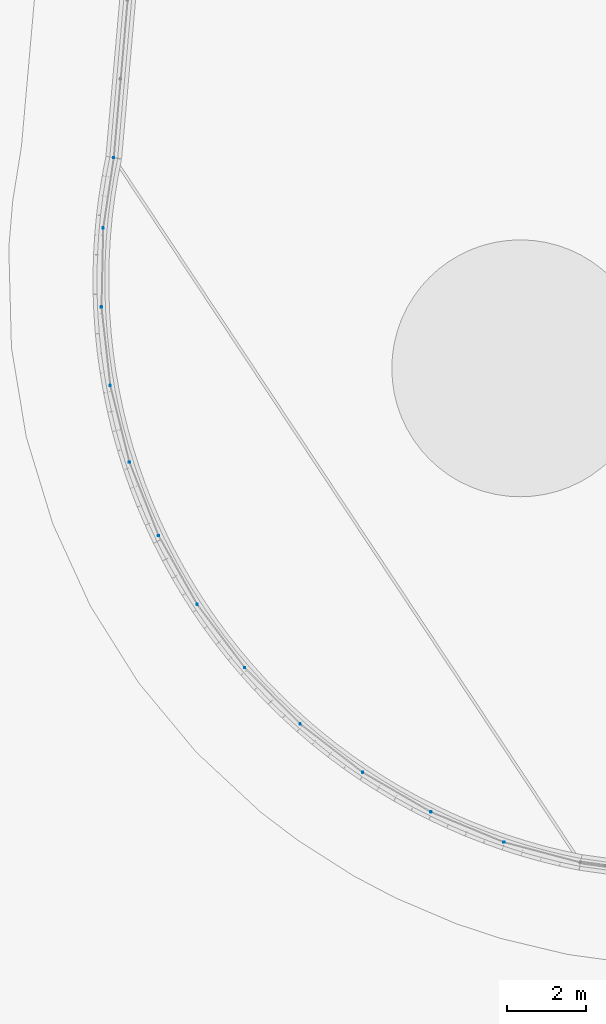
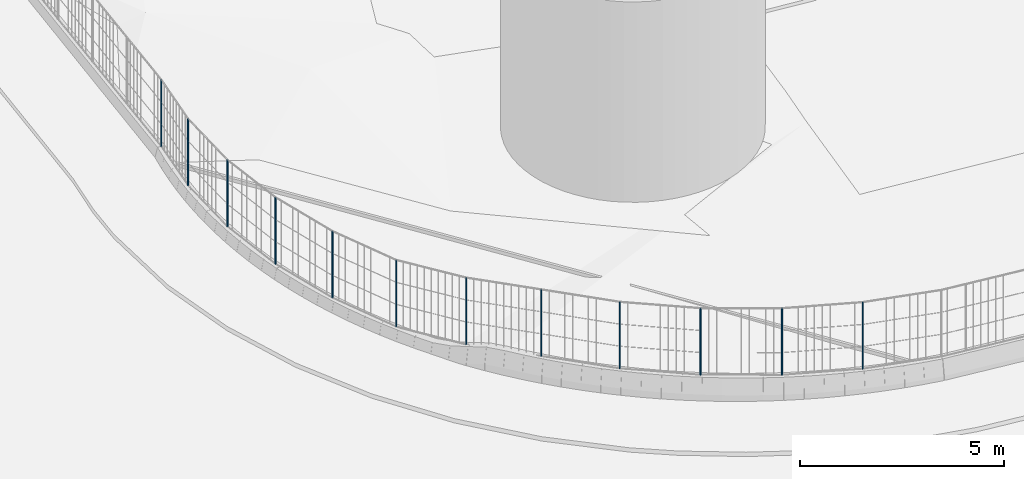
# Not in any storey, part 7 of 75: 1 member.
"""IFC4 model written with IfcOpenShell, lengths in metres."""

from ifc_helpers import new_model, si_unit, direction, origin, origin_with_axes, place, context, subcontext, project, spatial, triangles, element, save


model = new_model("IFC4")

# Units and contexts
model_context = context("Model", 3, precision=1e-05, world=origin_with_axes(), true_north=direction((0.0, 1.0)))
body_context = subcontext(model_context, "Body", "Model", "MODEL_VIEW")
ifc_project = project(units=[si_unit("AREAUNIT", "SQUARE_METRE"), si_unit("VOLUMEUNIT", "CUBIC_METRE"), si_unit("LENGTHUNIT", "METRE")], contexts=[model_context])

# Site
site_placement = place(None, origin_with_axes())
site = spatial("IfcSite", under=ifc_project, at=site_placement, Name="Parcela industrial Jinhong")

# Member
member_placement = place(None, origin())
element("IfcMember", 1, at=member_placement, inside=site, Name="Postes de vallado · Curva suroeste", ObjectType="Tubo de perfil 35 × 2 mm", PredefinedType="USERDEFINED", context=body_context, shape_type="Tessellation", body=[
    triangles([(4.090333, 19.619807, 1.25), (4.107833, 19.619807, 1.25), (4.107833, 19.619807, 3.25), (4.090333, 19.619807, 3.25), (4.104491, 19.630093, 1.25), (4.104491, 19.630093, 3.25), (4.095741, 19.63645, 1.25), (4.095741, 19.63645, 3.25), (4.084925, 19.63645, 1.25), (4.084925, 19.63645, 3.25), (4.076175, 19.630093, 1.25), (4.076175, 19.630093, 3.25), (4.072833, 19.619807, 1.25), (4.072833, 19.619807, 3.25), (4.076175, 19.60952, 1.25), (4.076175, 19.60952, 3.25), (4.084925, 19.603163, 1.25), (4.084925, 19.603163, 3.25), (4.095741, 19.603163, 1.25), (4.095741, 19.603163, 3.25), (4.104491, 19.60952, 1.25), (4.104491, 19.60952, 3.25)], [[2, 1, 5], [2, 5, 3], [3, 5, 6], [3, 6, 4], [5, 1, 7], [5, 7, 6], [6, 7, 8], [6, 8, 4], [7, 1, 9], [7, 9, 8], [8, 9, 10], [8, 10, 4], [9, 1, 11], [9, 11, 10], [10, 11, 12], [10, 12, 4], [11, 1, 13], [11, 13, 12], [12, 13, 14], [12, 14, 4], [13, 1, 15], [13, 15, 14], [14, 15, 16], [14, 16, 4], [15, 1, 17], [15, 17, 16], [16, 17, 18], [16, 18, 4], [17, 1, 19], [17, 19, 18], [18, 19, 20], [18, 20, 4], [19, 1, 21], [19, 21, 20], [20, 21, 22], [20, 22, 4], [21, 1, 2], [21, 2, 22], [22, 2, 3], [22, 3, 4]], closed=True),
    triangles([(2.243679, 20.383969, 1.25), (2.261179, 20.383969, 1.25), (2.261179, 20.383969, 3.25), (2.243679, 20.383969, 3.25), (2.257837, 20.394255, 1.25), (2.257837, 20.394255, 3.25), (2.249087, 20.400612, 1.25), (2.249087, 20.400612, 3.25), (2.238271, 20.400612, 1.25), (2.238271, 20.400612, 3.25), (2.229521, 20.394255, 1.25), (2.229521, 20.394255, 3.25), (2.226179, 20.383969, 1.25), (2.226179, 20.383969, 3.25), (2.229521, 20.373682, 1.25), (2.229521, 20.373682, 3.25), (2.238271, 20.367325, 1.25), (2.238271, 20.367325, 3.25), (2.249087, 20.367325, 1.25), (2.249087, 20.367325, 3.25), (2.257837, 20.373682, 1.25), (2.257837, 20.373682, 3.25)], [[2, 1, 5], [2, 5, 3], [3, 5, 6], [3, 6, 4], [5, 1, 7], [5, 7, 6], [6, 7, 8], [6, 8, 4], [7, 1, 9], [7, 9, 8], [8, 9, 10], [8, 10, 4], [9, 1, 11], [9, 11, 10], [10, 11, 12], [10, 12, 4], [11, 1, 13], [11, 13, 12], [12, 13, 14], [12, 14, 4], [13, 1, 15], [13, 15, 14], [14, 15, 16], [14, 16, 4], [15, 1, 17], [15, 17, 16], [16, 17, 18], [16, 18, 4], [17, 1, 19], [17, 19, 18], [18, 19, 20], [18, 20, 4], [19, 1, 21], [19, 21, 20], [20, 21, 22], [20, 22, 4], [21, 1, 2], [21, 2, 22], [22, 2, 3], [22, 3, 4]], closed=True),
    triangles([(0.515023, 21.386877, 1.25), (0.532523, 21.386877, 1.25), (0.532523, 21.386877, 3.25), (0.515023, 21.386877, 3.25), (0.529181, 21.397163, 1.25), (0.529181, 21.397163, 3.25), (0.520431, 21.40352, 1.25), (0.520431, 21.40352, 3.25), (0.509615, 21.40352, 1.25), (0.509615, 21.40352, 3.25), (0.500865, 21.397163, 1.25), (0.500865, 21.397163, 3.25), (0.497523, 21.386877, 1.25), (0.497523, 21.386877, 3.25), (0.500865, 21.376591, 1.25), (0.500865, 21.376591, 3.25), (0.509615, 21.370233, 1.25), (0.509615, 21.370233, 3.25), (0.520431, 21.370233, 1.25), (0.520431, 21.370233, 3.25), (0.529181, 21.376591, 1.25), (0.529181, 21.376591, 3.25)], [[2, 1, 5], [2, 5, 3], [3, 5, 6], [3, 6, 4], [5, 1, 7], [5, 7, 6], [6, 7, 8], [6, 8, 4], [7, 1, 9], [7, 9, 8], [8, 9, 10], [8, 10, 4], [9, 1, 11], [9, 11, 10], [10, 11, 12], [10, 12, 4], [11, 1, 13], [11, 13, 12], [12, 13, 14], [12, 14, 4], [13, 1, 15], [13, 15, 14], [14, 15, 16], [14, 16, 4], [15, 1, 17], [15, 17, 16], [16, 17, 18], [16, 18, 4], [17, 1, 19], [17, 19, 18], [18, 19, 20], [18, 20, 4], [19, 1, 21], [19, 21, 20], [20, 21, 22], [20, 22, 4], [21, 1, 2], [21, 2, 22], [22, 2, 3], [22, 3, 4]], closed=True),
    triangles([(-1.064938, 22.610723, 1.25), (-1.047438, 22.610723, 1.25), (-1.047438, 22.610723, 3.25), (-1.064938, 22.610723, 3.25), (-1.05078, 22.621009, 1.25), (-1.05078, 22.621009, 3.25), (-1.05953, 22.627366, 1.25), (-1.05953, 22.627366, 3.25), (-1.070346, 22.627366, 1.25), (-1.070346, 22.627366, 3.25), (-1.079096, 22.621009, 1.25), (-1.079096, 22.621009, 3.25), (-1.082438, 22.610723, 1.25), (-1.082438, 22.610723, 3.25), (-1.079096, 22.600437, 1.25), (-1.079096, 22.600437, 3.25), (-1.070346, 22.594079, 1.25), (-1.070346, 22.594079, 3.25), (-1.05953, 22.594079, 1.25), (-1.05953, 22.594079, 3.25), (-1.05078, 22.600437, 1.25), (-1.05078, 22.600437, 3.25)], [[2, 1, 5], [2, 5, 3], [3, 5, 6], [3, 6, 4], [5, 1, 7], [5, 7, 6], [6, 7, 8], [6, 8, 4], [7, 1, 9], [7, 9, 8], [8, 9, 10], [8, 10, 4], [9, 1, 11], [9, 11, 10], [10, 11, 12], [10, 12, 4], [11, 1, 13], [11, 13, 12], [12, 13, 14], [12, 14, 4], [13, 1, 15], [13, 15, 14], [14, 15, 16], [14, 16, 4], [15, 1, 17], [15, 17, 16], [16, 17, 18], [16, 18, 4], [17, 1, 19], [17, 19, 18], [18, 19, 20], [18, 20, 4], [19, 1, 21], [19, 21, 20], [20, 21, 22], [20, 22, 4], [21, 1, 2], [21, 2, 22], [22, 2, 3], [22, 3, 4]], closed=True),
    triangles([(-2.468149, 24.033774, 1.25), (-2.450649, 24.033774, 1.25), (-2.450649, 24.033774, 3.25), (-2.468149, 24.033774, 3.25), (-2.453991, 24.04406, 1.25), (-2.453991, 24.04406, 3.25), (-2.462741, 24.050418, 1.25), (-2.462741, 24.050418, 3.25), (-2.473557, 24.050418, 1.25), (-2.473557, 24.050418, 3.25), (-2.482307, 24.04406, 1.25), (-2.482307, 24.04406, 3.25), (-2.485649, 24.033774, 1.25), (-2.485649, 24.033774, 3.25), (-2.482307, 24.023488, 1.25), (-2.482307, 24.023488, 3.25), (-2.473557, 24.017131, 1.25), (-2.473557, 24.017131, 3.25), (-2.462741, 24.017131, 1.25), (-2.462741, 24.017131, 3.25), (-2.453991, 24.023488, 1.25), (-2.453991, 24.023488, 3.25)], [[2, 1, 5], [2, 5, 3], [3, 5, 6], [3, 6, 4], [5, 1, 7], [5, 7, 6], [6, 7, 8], [6, 8, 4], [7, 1, 9], [7, 9, 8], [8, 9, 10], [8, 10, 4], [9, 1, 11], [9, 11, 10], [10, 11, 12], [10, 12, 4], [11, 1, 13], [11, 13, 12], [12, 13, 14], [12, 14, 4], [13, 1, 15], [13, 15, 14], [14, 15, 16], [14, 16, 4], [15, 1, 17], [15, 17, 16], [16, 17, 18], [16, 18, 4], [17, 1, 19], [17, 19, 18], [18, 19, 20], [18, 20, 4], [19, 1, 21], [19, 21, 20], [20, 21, 22], [20, 22, 4], [21, 1, 2], [21, 2, 22], [22, 2, 3], [22, 3, 4]], closed=True),
    triangles([(-3.669693, 25.630761, 1.055285), (-3.652193, 25.630761, 1.055285), (-3.652193, 25.630761, 3.055285), (-3.669693, 25.630761, 3.055285), (-3.655535, 25.641048, 1.055285), (-3.655535, 25.641048, 3.055285), (-3.664285, 25.647405, 1.055285), (-3.664285, 25.647405, 3.055285), (-3.6751, 25.647405, 1.055285), (-3.6751, 25.647405, 3.055285), (-3.68385, 25.641048, 1.055285), (-3.68385, 25.641048, 3.055285), (-3.687193, 25.630761, 1.055285), (-3.687193, 25.630761, 3.055285), (-3.68385, 25.620475, 1.055285), (-3.68385, 25.620475, 3.055285), (-3.6751, 25.614118, 1.055285), (-3.6751, 25.614118, 3.055285), (-3.664285, 25.614118, 1.055285), (-3.664285, 25.614118, 3.055285), (-3.655535, 25.620475, 1.055285), (-3.655535, 25.620475, 3.055285)], [[2, 1, 5], [2, 5, 3], [3, 5, 6], [3, 6, 4], [5, 1, 7], [5, 7, 6], [6, 7, 8], [6, 8, 4], [7, 1, 9], [7, 9, 8], [8, 9, 10], [8, 10, 4], [9, 1, 11], [9, 11, 10], [10, 11, 12], [10, 12, 4], [11, 1, 13], [11, 13, 12], [12, 13, 14], [12, 14, 4], [13, 1, 15], [13, 15, 14], [14, 15, 16], [14, 16, 4], [15, 1, 17], [15, 17, 16], [16, 17, 18], [16, 18, 4], [17, 1, 19], [17, 19, 18], [18, 19, 20], [18, 20, 4], [19, 1, 21], [19, 21, 20], [20, 21, 22], [20, 22, 4], [21, 1, 2], [21, 2, 22], [22, 2, 3], [22, 3, 4]], closed=True),
    triangles([(-4.648233, 27.373327, 0.87), (-4.630733, 27.373327, 0.87), (-4.630733, 27.373327, 2.87), (-4.648233, 27.373327, 2.87), (-4.634075, 27.383613, 0.87), (-4.634075, 27.383613, 2.87), (-4.642825, 27.389971, 0.87), (-4.642825, 27.389971, 2.87), (-4.653641, 27.389971, 0.87), (-4.653641, 27.389971, 2.87), (-4.662391, 27.383613, 0.87), (-4.662391, 27.383613, 2.87), (-4.665733, 27.373327, 0.87), (-4.665733, 27.373327, 2.87), (-4.662391, 27.363041, 0.87), (-4.662391, 27.363041, 2.87), (-4.653641, 27.356684, 0.87), (-4.653641, 27.356684, 2.87), (-4.642825, 27.356684, 0.87), (-4.642825, 27.356684, 2.87), (-4.634075, 27.363041, 0.87), (-4.634075, 27.363041, 2.87)], [[2, 1, 5], [2, 5, 3], [3, 5, 6], [3, 6, 4], [5, 1, 7], [5, 7, 6], [6, 7, 8], [6, 8, 4], [7, 1, 9], [7, 9, 8], [8, 9, 10], [8, 10, 4], [9, 1, 11], [9, 11, 10], [10, 11, 12], [10, 12, 4], [11, 1, 13], [11, 13, 12], [12, 13, 14], [12, 14, 4], [13, 1, 15], [13, 15, 14], [14, 15, 16], [14, 16, 4], [15, 1, 17], [15, 17, 16], [16, 17, 18], [16, 18, 4], [17, 1, 19], [17, 19, 18], [18, 19, 20], [18, 20, 4], [19, 1, 21], [19, 21, 20], [20, 21, 22], [20, 22, 4], [21, 1, 2], [21, 2, 22], [22, 2, 3], [22, 3, 4]], closed=True),
    triangles([(-5.386394, 29.230528, 0.87), (-5.368894, 29.230528, 0.87), (-5.368894, 29.230528, 2.87), (-5.386394, 29.230528, 2.87), (-5.372236, 29.240814, 0.87), (-5.372236, 29.240814, 2.87), (-5.380986, 29.247171, 0.87), (-5.380986, 29.247171, 2.87), (-5.391801, 29.247171, 0.87), (-5.391801, 29.247171, 2.87), (-5.400551, 29.240814, 0.87), (-5.400551, 29.240814, 2.87), (-5.403894, 29.230528, 0.87), (-5.403894, 29.230528, 2.87), (-5.400551, 29.220241, 0.87), (-5.400551, 29.220241, 2.87), (-5.391801, 29.213884, 0.87), (-5.391801, 29.213884, 2.87), (-5.380986, 29.213884, 0.87), (-5.380986, 29.213884, 2.87), (-5.372236, 29.220241, 0.87), (-5.372236, 29.220241, 2.87)], [[2, 1, 5], [2, 5, 3], [3, 5, 6], [3, 6, 4], [5, 1, 7], [5, 7, 6], [6, 7, 8], [6, 8, 4], [7, 1, 9], [7, 9, 8], [8, 9, 10], [8, 10, 4], [9, 1, 11], [9, 11, 10], [10, 11, 12], [10, 12, 4], [11, 1, 13], [11, 13, 12], [12, 13, 14], [12, 14, 4], [13, 1, 15], [13, 15, 14], [14, 15, 16], [14, 16, 4], [15, 1, 17], [15, 17, 16], [16, 17, 18], [16, 18, 4], [17, 1, 19], [17, 19, 18], [18, 19, 20], [18, 20, 4], [19, 1, 21], [19, 21, 20], [20, 21, 22], [20, 22, 4], [21, 1, 2], [21, 2, 22], [22, 2, 3], [22, 3, 4]], closed=True),
    triangles([(-5.871067, 31.169385, 0.87), (-5.853567, 31.169385, 0.87), (-5.853567, 31.169385, 2.87), (-5.871067, 31.169385, 2.87), (-5.85691, 31.179671, 0.87), (-5.85691, 31.179671, 2.87), (-5.86566, 31.186028, 0.87), (-5.86566, 31.186028, 2.87), (-5.876475, 31.186028, 0.87), (-5.876475, 31.186028, 2.87), (-5.885225, 31.179671, 0.87), (-5.885225, 31.179671, 2.87), (-5.888567, 31.169385, 0.87), (-5.888567, 31.169385, 2.87), (-5.885225, 31.159099, 0.87), (-5.885225, 31.159099, 2.87), (-5.876475, 31.152741, 0.87), (-5.876475, 31.152741, 2.87), (-5.86566, 31.152741, 0.87), (-5.86566, 31.152741, 2.87), (-5.85691, 31.159099, 0.87), (-5.85691, 31.159099, 2.87)], [[2, 1, 5], [2, 5, 3], [3, 5, 6], [3, 6, 4], [5, 1, 7], [5, 7, 6], [6, 7, 8], [6, 8, 4], [7, 1, 9], [7, 9, 8], [8, 9, 10], [8, 10, 4], [9, 1, 11], [9, 11, 10], [10, 11, 12], [10, 12, 4], [11, 1, 13], [11, 13, 12], [12, 13, 14], [12, 14, 4], [13, 1, 15], [13, 15, 14], [14, 15, 16], [14, 16, 4], [15, 1, 17], [15, 17, 16], [16, 17, 18], [16, 18, 4], [17, 1, 19], [17, 19, 18], [18, 19, 20], [18, 20, 4], [19, 1, 21], [19, 21, 20], [20, 21, 22], [20, 22, 4], [21, 1, 2], [21, 2, 22], [22, 2, 3], [22, 3, 4]], closed=True),
    triangles([(-6.093648, 33.15547, 0.87), (-6.076148, 33.15547, 0.87), (-6.076148, 33.15547, 2.87), (-6.093648, 33.15547, 2.87), (-6.07949, 33.165756, 0.87), (-6.07949, 33.165756, 2.87), (-6.08824, 33.172113, 0.87), (-6.08824, 33.172113, 2.87), (-6.099055, 33.172113, 0.87), (-6.099055, 33.172113, 2.87), (-6.107805, 33.165756, 0.87), (-6.107805, 33.165756, 2.87), (-6.111148, 33.15547, 0.87), (-6.111148, 33.15547, 2.87), (-6.107805, 33.145184, 0.87), (-6.107805, 33.145184, 2.87), (-6.099055, 33.138826, 0.87), (-6.099055, 33.138826, 2.87), (-6.08824, 33.138826, 0.87), (-6.08824, 33.138826, 2.87), (-6.07949, 33.145184, 0.87), (-6.07949, 33.145184, 2.87)], [[2, 1, 5], [2, 5, 3], [3, 5, 6], [3, 6, 4], [5, 1, 7], [5, 7, 6], [6, 7, 8], [6, 8, 4], [7, 1, 9], [7, 9, 8], [8, 9, 10], [8, 10, 4], [9, 1, 11], [9, 11, 10], [10, 11, 12], [10, 12, 4], [11, 1, 13], [11, 13, 12], [12, 13, 14], [12, 14, 4], [13, 1, 15], [13, 15, 14], [14, 15, 16], [14, 16, 4], [15, 1, 17], [15, 17, 16], [16, 17, 18], [16, 18, 4], [17, 1, 19], [17, 19, 18], [18, 19, 20], [18, 20, 4], [19, 1, 21], [19, 21, 20], [20, 21, 22], [20, 22, 4], [21, 1, 2], [21, 2, 22], [22, 2, 3], [22, 3, 4]], closed=True),
    triangles([(-6.050182, 35.153515, 0.87), (-6.032682, 35.153515, 0.87), (-6.032682, 35.153515, 2.87), (-6.050182, 35.153515, 2.87), (-6.036024, 35.163802, 0.87), (-6.036024, 35.163802, 2.87), (-6.044774, 35.170159, 0.87), (-6.044774, 35.170159, 2.87), (-6.05559, 35.170159, 0.87), (-6.05559, 35.170159, 2.87), (-6.06434, 35.163802, 0.87), (-6.06434, 35.163802, 2.87), (-6.067682, 35.153515, 0.87), (-6.067682, 35.153515, 2.87), (-6.06434, 35.143229, 0.87), (-6.06434, 35.143229, 2.87), (-6.05559, 35.136872, 0.87), (-6.05559, 35.136872, 2.87), (-6.044774, 35.136872, 0.87), (-6.044774, 35.136872, 2.87), (-6.036024, 35.143229, 0.87), (-6.036024, 35.143229, 2.87)], [[2, 1, 5], [2, 5, 3], [3, 5, 6], [3, 6, 4], [5, 1, 7], [5, 7, 6], [6, 7, 8], [6, 8, 4], [7, 1, 9], [7, 9, 8], [8, 9, 10], [8, 10, 4], [9, 1, 11], [9, 11, 10], [10, 11, 12], [10, 12, 4], [11, 1, 13], [11, 13, 12], [12, 13, 14], [12, 14, 4], [13, 1, 15], [13, 15, 14], [14, 15, 16], [14, 16, 4], [15, 1, 17], [15, 17, 16], [16, 17, 18], [16, 18, 4], [17, 1, 19], [17, 19, 18], [18, 19, 20], [18, 20, 4], [19, 1, 21], [19, 21, 20], [20, 21, 22], [20, 22, 4], [21, 1, 2], [21, 2, 22], [22, 2, 3], [22, 3, 4]], closed=True),
    triangles([(-5.784005, 36.93326, 0.870502), (-5.766505, 36.93326, 0.870502), (-5.766505, 36.93326, 2.870502), (-5.784005, 36.93326, 2.870502), (-5.769848, 36.943547, 0.870502), (-5.769848, 36.943547, 2.870502), (-5.778598, 36.949904, 0.870502), (-5.778598, 36.949904, 2.870502), (-5.789413, 36.949904, 0.870502), (-5.789413, 36.949904, 2.870502), (-5.798163, 36.943547, 0.870502), (-5.798163, 36.943547, 2.870502), (-5.801505, 36.93326, 0.870502), (-5.801505, 36.93326, 2.870502), (-5.798163, 36.922974, 0.870502), (-5.798163, 36.922974, 2.870502), (-5.789413, 36.916617, 0.870502), (-5.789413, 36.916617, 2.870502), (-5.778598, 36.916617, 0.870502), (-5.778598, 36.916617, 2.870502), (-5.769848, 36.922974, 0.870502), (-5.769848, 36.922974, 2.870502)], [[2, 1, 5], [2, 5, 3], [3, 5, 6], [3, 6, 4], [5, 1, 7], [5, 7, 6], [6, 7, 8], [6, 8, 4], [7, 1, 9], [7, 9, 8], [8, 9, 10], [8, 10, 4], [9, 1, 11], [9, 11, 10], [10, 11, 12], [10, 12, 4], [11, 1, 13], [11, 13, 12], [12, 13, 14], [12, 14, 4], [13, 1, 15], [13, 15, 14], [14, 15, 16], [14, 16, 4], [15, 1, 17], [15, 17, 16], [16, 17, 18], [16, 18, 4], [17, 1, 19], [17, 19, 18], [18, 19, 20], [18, 20, 4], [19, 1, 21], [19, 21, 20], [20, 21, 22], [20, 22, 4], [21, 1, 2], [21, 2, 22], [22, 2, 3], [22, 3, 4]], closed=True),
])

save(model, "model.ifc")
